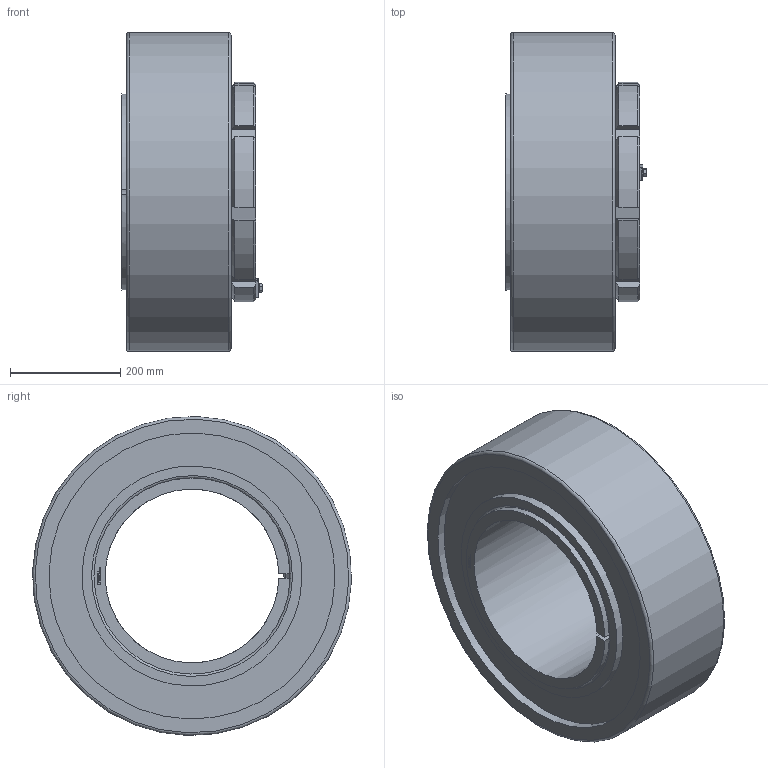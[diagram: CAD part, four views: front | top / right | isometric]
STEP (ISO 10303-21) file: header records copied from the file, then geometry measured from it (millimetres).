
FILE_DESCRIPTION( ( 'STEP AP203' ), ' ' );
FILE_NAME( 'p:/temp/worker_51/4488_1156/app_90_02016102822451736913086192d056f_000000_00_00_000000/format_0/BGL HA 3168 TL+23168K.stp', '2016-10-28T20:45:19', ( '' ), ( '' ), ' ', 'PARTsolutions', ' ' );
FILE_SCHEMA( ( 'CONFIG_CONTROL_DESIGN' ) );
Length unit declared in the file: millimetre
Products named in the file (6): BGL HA 3168 TL+23168K; _BGLHA3168TLB; _BGL HM 3068; _BGLHA3168TL+HA-23168K; _BGL MS 3064-BGL MS 3068part; _BGL MS 3064-BGL MS 3068HHS
Assembly tree (5 placements, depth 2):
  BGL HA 3168 TL+23168K
    _BGLHA3168TLB
    _BGL HM 3068
    _BGLHA3168TL+HA-23168K
    _BGL MS 3064-BGL MS 3068part
    _BGL MS 3064-BGL MS 3068HHS
Bounding box: 256.05 x 579.8 x 579.8 mm (x, y, z)
Volume: 34684221.4 mm3; surface area: 1693453.2 mm2
Topology: 5 solids, 5 shells, 351 faces, 899 edges, 589 vertices
Faces by surface type: plane 230, cylinder 79, cone 38, torus 4
Full cylindrical faces by diameter (mm): 8 x9, 9 x1, 14.8 x1, 335 x1, 400 x2, 520 x2, 580 x1
Entity records: 10762 total; most frequent: CARTESIAN_POINT 2104, DIRECTION 1729, ORIENTED_EDGE 1726, EDGE_CURVE 863, VERTEX_POINT 586, AXIS2_PLACEMENT_3D 577, LINE 575, VECTOR 575
